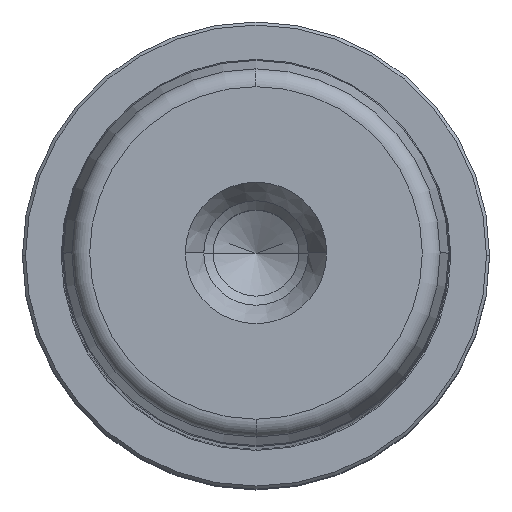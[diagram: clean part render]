
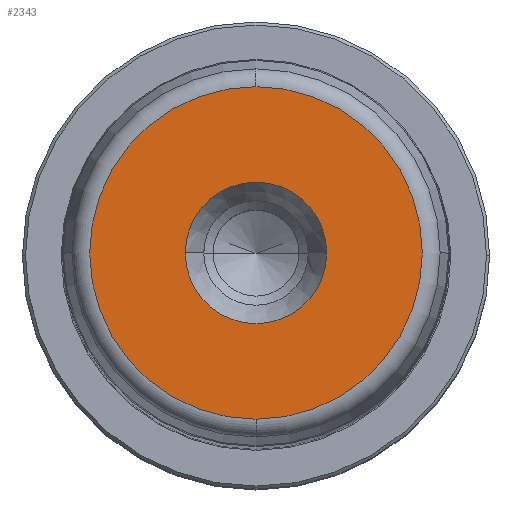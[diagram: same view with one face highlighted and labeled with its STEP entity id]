
A CAD part, top view. The second image highlights one B-rep face of the part: STEP entity #2343.
In plain terms, the highlighted planar face has unit normal (0, 0, 1).
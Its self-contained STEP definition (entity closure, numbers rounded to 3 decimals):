
#431=CARTESIAN_POINT('',(11.5,0.,250.0));
#432=VERTEX_POINT('',#431);
#439=CARTESIAN_POINT('',(-11.5,0.,250.0));
#440=VERTEX_POINT('',#439);
#441=CARTESIAN_POINT('',(0.0,0.,250.));
#442=DIRECTION('',(0.0,0.0,1.0));
#443=DIRECTION('',(1.0,0.0,0.0));
#444=AXIS2_PLACEMENT_3D('',#441,#442,#443);
#445=CIRCLE('',#444,11.5);
#446=EDGE_CURVE('',#432,#440,#445,.T.);
#463=CARTESIAN_POINT('',(0.0,-27.054,250.));
#464=VERTEX_POINT('',#463);
#474=CARTESIAN_POINT('',(0.,27.054,250.));
#475=VERTEX_POINT('',#474);
#476=CARTESIAN_POINT('',(0.0,0.,250.));
#477=DIRECTION('',(0.0,0.0,1.0));
#478=DIRECTION('',(1.0,0.0,0.0));
#479=AXIS2_PLACEMENT_3D('',#476,#477,#478);
#480=CIRCLE('',#479,27.054);
#481=EDGE_CURVE('',#475,#464,#480,.T.);
#2304=CARTESIAN_POINT('',(27.054,0.,250.));
#2305=VERTEX_POINT('',#2304);
#2306=CARTESIAN_POINT('',(0.0,0.,250.));
#2307=DIRECTION('',(0.0,0.0,1.0));
#2308=DIRECTION('',(1.0,0.0,0.0));
#2309=AXIS2_PLACEMENT_3D('',#2306,#2307,#2308);
#2310=CIRCLE('',#2309,27.054);
#2311=EDGE_CURVE('',#2305,#475,#2310,.T.);
#2313=CARTESIAN_POINT('',(0.0,0.,250.));
#2314=DIRECTION('',(0.0,0.0,1.0));
#2315=DIRECTION('',(1.0,0.0,0.0));
#2316=AXIS2_PLACEMENT_3D('',#2313,#2314,#2315);
#2317=CIRCLE('',#2316,27.054);
#2318=EDGE_CURVE('',#464,#2305,#2317,.T.);
#2323=CARTESIAN_POINT('',(19.277,0.,250.0));
#2324=DIRECTION('',(0.0,0.0,1.0));
#2325=DIRECTION('',(0.0,-1.0,0.0));
#2326=AXIS2_PLACEMENT_3D('',#2323,#2324,#2325);
#2327=PLANE('',#2326);
#2328=ORIENTED_EDGE('',*,*,#2311,.T.);
#2329=ORIENTED_EDGE('',*,*,#481,.T.);
#2330=ORIENTED_EDGE('',*,*,#2318,.T.);
#2331=EDGE_LOOP('',(#2328,#2329,#2330));
#2332=FACE_OUTER_BOUND('',#2331,.T.);
#2333=ORIENTED_EDGE('',*,*,#446,.F.);
#2334=CARTESIAN_POINT('',(0.0,0.,250.));
#2335=DIRECTION('',(0.0,0.0,1.0));
#2336=DIRECTION('',(1.0,0.0,0.0));
#2337=AXIS2_PLACEMENT_3D('',#2334,#2335,#2336);
#2338=CIRCLE('',#2337,11.5);
#2339=EDGE_CURVE('',#440,#432,#2338,.T.);
#2340=ORIENTED_EDGE('',*,*,#2339,.F.);
#2341=EDGE_LOOP('',(#2333,#2340));
#2342=FACE_BOUND('',#2341,.T.);
#2343=ADVANCED_FACE('',(#2332,#2342),#2327,.T.);
